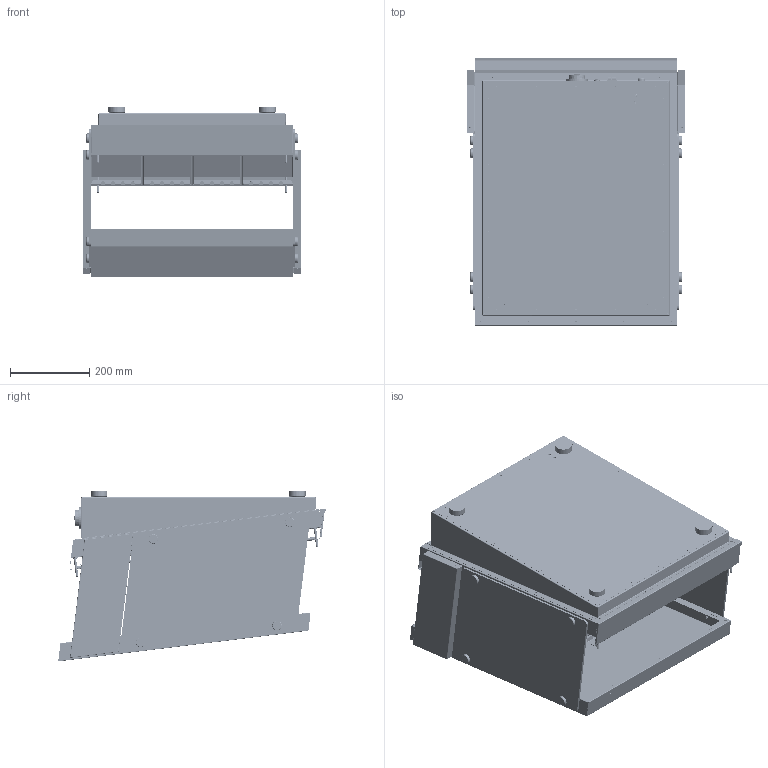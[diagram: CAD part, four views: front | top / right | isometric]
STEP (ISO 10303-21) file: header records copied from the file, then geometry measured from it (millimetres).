
FILE_DESCRIPTION (( 'STEP AP214' ), '1' );
FILE_NAME ('pres_CBIN551.STEP', '2024-12-17T10:26:52', ( '' ), ( '' ), 'SwSTEP 2.0', 'SolidWorks 2025', '' );
FILE_SCHEMA (( 'AUTOMOTIVE_DESIGN' ));
Length unit declared in the file: millimetre
Products named in the file (1): pres_CBIN551
Bounding box: 550.2 x 674.89 x 430.73 mm (x, y, z)
Volume: 3390164.8 mm3; surface area: 5198052.6 mm2
Topology: 89 solids, 89 shells, 5013 faces, 12727 edges, 7929 vertices
Faces by surface type: plane 2138, cylinder 2038, bspline 397, torus 264, sphere 129, cone 47
Entity records: 250234 total; most frequent: CARTESIAN_POINT 127992, ORIENTED_EDGE 25420, DIRECTION 23760, EDGE_CURVE 12710, AXIS2_PLACEMENT_3D 8856, VERTEX_POINT 7921, LINE 6048, VECTOR 6048
